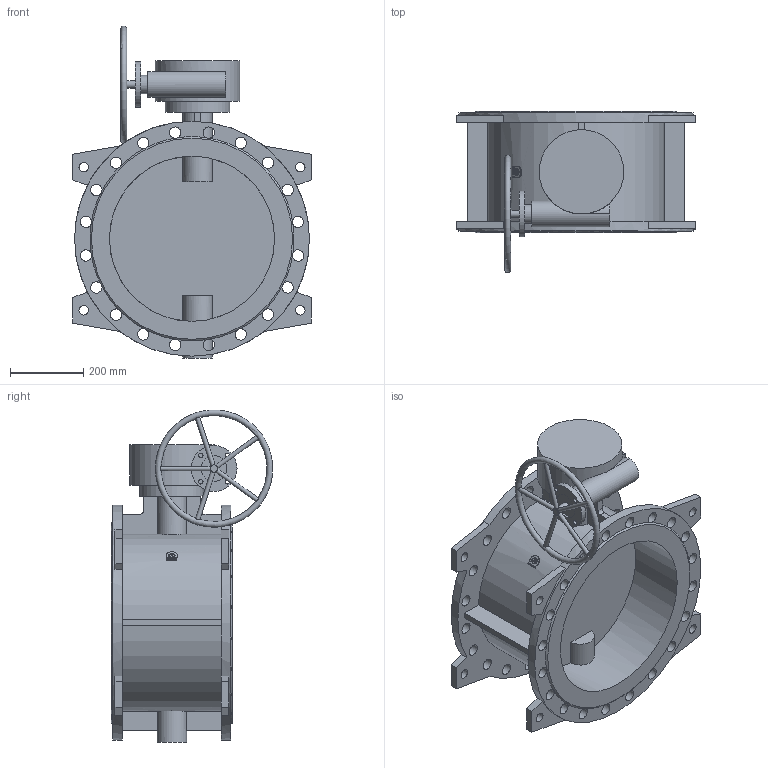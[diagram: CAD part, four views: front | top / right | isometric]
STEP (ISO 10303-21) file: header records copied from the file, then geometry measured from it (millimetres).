
FILE_DESCRIPTION(('STEP AP203'), '1');
FILE_NAME('Çàòâîð 023F.Z DN450 PN16_ìàõ', '', ('UNSPECIFIED'), ('UNSPECIFIED'), 'ASCON STEP Converter 1.6', 'ASCON Math Kernel', '');
FILE_SCHEMA(('CONFIG_CONTROL_DESIGN'));
Length unit declared in the file: millimetre
Bounding box: 650 x 439.76 x 904.58 mm (x, y, z)
Volume: 31230694.5 mm3; surface area: 2473108.5 mm2
Topology: 1 solids, 1 shells, 189 faces, 627 edges, 417 vertices
Faces by surface type: cylinder 96, plane 90, cone 2, torus 1
Full cylindrical faces by diameter (mm): 12 x9, 14 x4, 18 x4, 20 x2, 26 x8, 31 x40, 50 x1, 70 x2, 80 x1, 125 x1, 175 x1, 230 x1, 450 x2, 640 x2
Entity records: 13948 total; most frequent: CARTESIAN_POINT 6983, DIRECTION 1105, ORIENTED_EDGE 1084, EDGE_CURVE 542, AXIS2_PLACEMENT_3D 462, VERTEX_POINT 415, EDGE_LOOP 361, CIRCLE 273
